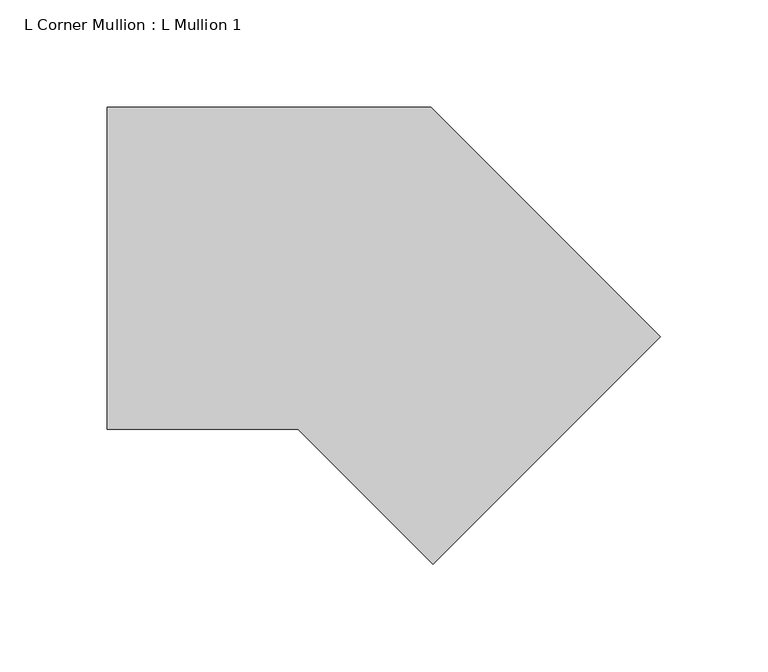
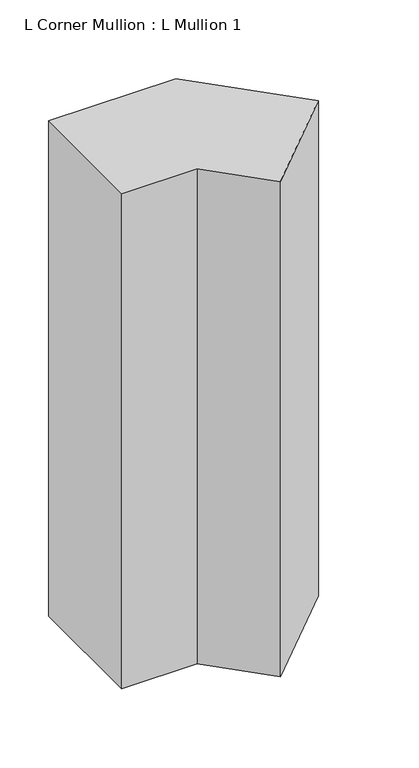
"""IFC4 building model written with IfcOpenShell, lengths in millimetres: member geometry, L Corner Mullion : L Mullion 1."""

from ifc_helpers import new_model, si_unit, frame, origin, place, context, project, spatial, polyline, outline, extrude, source, transform, mapped, element, save


def l_corner_mullion_l_mullion_1_e8b68346(model_context):
    return source(origin(), model_context, "Body", "SweptSolid", [
        extrude(outline(polyline([(20.636039, -164.8858223), (-42.2497834, -102.0), (-131.1837662, -102.0), (-131.1837662, 48.0), (19.882251, 48.0), (126.7020561, -58.8198052), (20.636039, -164.8858223)])), frame((0.0, 0.0, -619.6621432), z_axis=(0.0, 0.0, 1.0), x_axis=(1.0, 0.0, 0.0)), (0.0, 0.0, 1.0), 619.6621432),
    ])


if __name__ == "__main__":
    model = new_model("IFC4")
    model_context = context("Model", 3, world=origin())
    ifc_project = project(units=[si_unit("LENGTHUNIT", "METRE", prefix="MILLI")], contexts=[model_context])
    site = spatial("IfcSite", under=ifc_project)
    building = spatial("IfcBuilding", under=site)
    placement = place(None, origin())
    l_corner_mullion_l_mullion_1_shape = l_corner_mullion_l_mullion_1_e8b68346(model_context)
    element("IfcMember", 1, ObjectType="L Corner Mullion : L Mullion 1", at=placement, inside=building, context=model_context, shape_type="MappedRepresentation", body=[
        mapped(l_corner_mullion_l_mullion_1_shape, transform((0.0, 0.0, 0.0), x_axis=(1.0, 0.0, 0.0), y_axis=(0.0, 1.0, 0.0), z_axis=(0.0, 0.0, 1.0))),
    ])
    save(model, "model.ifc")
